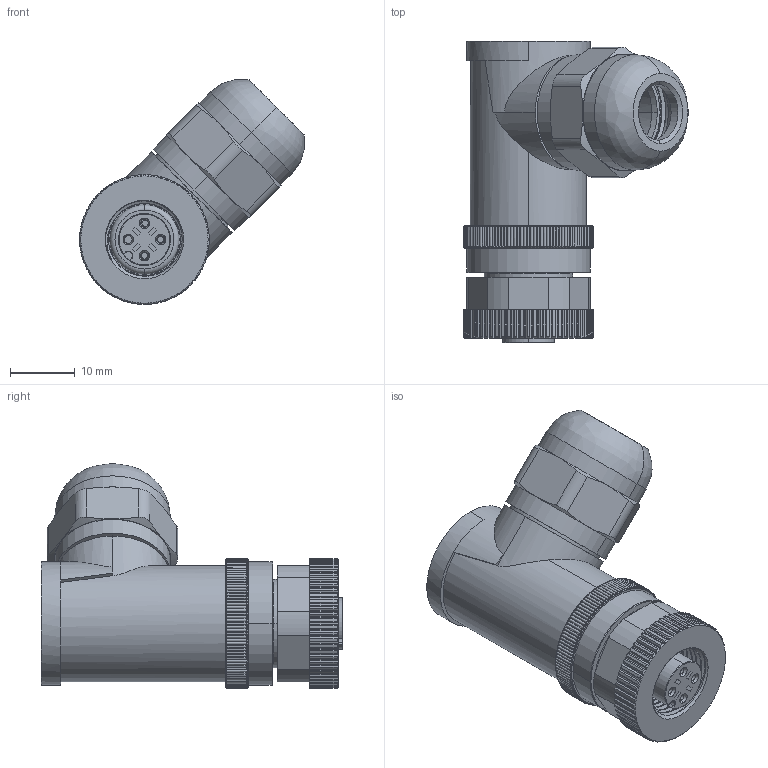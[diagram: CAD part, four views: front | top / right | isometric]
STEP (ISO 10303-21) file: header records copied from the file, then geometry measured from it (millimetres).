
FILE_DESCRIPTION((''),'2;1');
FILE_NAME('XC-M12P-RWK-PG9','2025-06-23T14:28:54',('lyj'),(''),'CREO PARAMETRIC BY PTC INC, 2019010','CREO PARAMETRIC BY PTC INC, 2019010','');
FILE_SCHEMA(('CONFIG_CONTROL_DESIGN'));
Length unit declared in the file: millimetre
Products named in the file (1): XC-M12P-RWK-PG9
Bounding box: 34.66 x 46.5 x 34.66 mm (x, y, z)
Volume: 10355.1 mm3; surface area: 13305.7 mm2
Topology: 1 solids, 8 shells, 1689 faces, 4473 edges, 2847 vertices
Faces by surface type: cylinder 800, plane 404, cone 377, bspline 51, extrusion 29, torus 28
Entity records: 82725 total; most frequent: CARTESIAN_POINT 42493, ORIENTED_EDGE 8946, DIRECTION 7784, EDGE_CURVE 4473, AXIS2_PLACEMENT_3D 3090, VERTEX_POINT 2847, EDGE_LOOP 1776, FACE_OUTER_BOUND 1689
